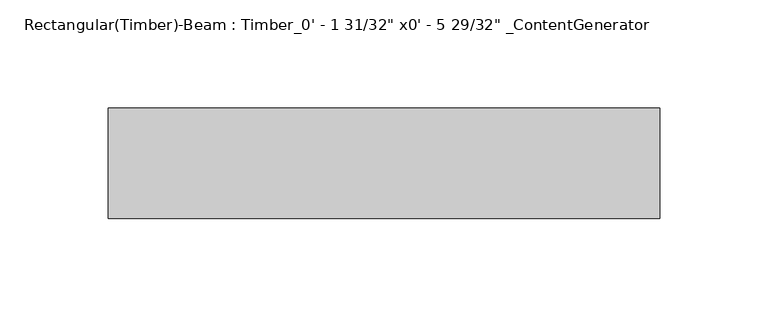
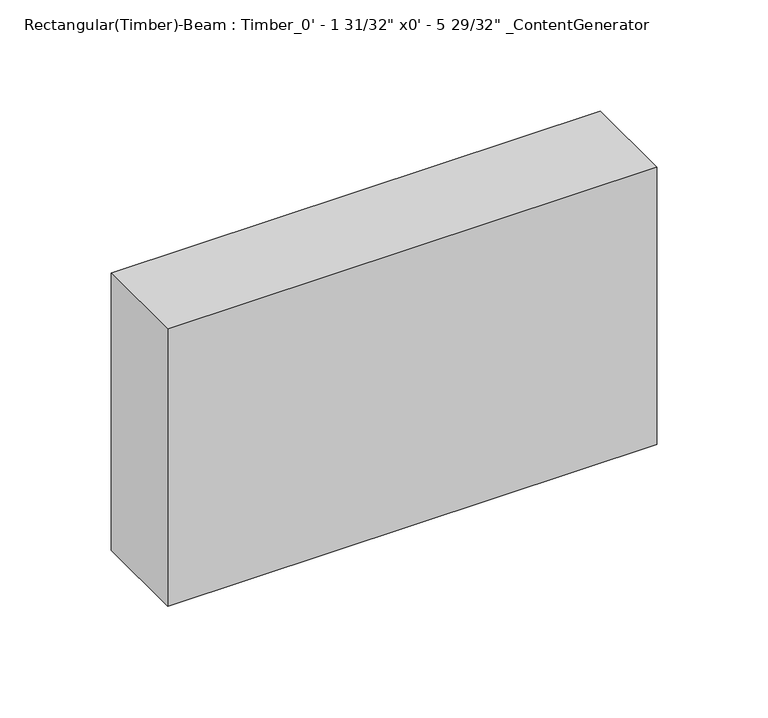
"""IFC4 building model written with IfcOpenShell, lengths in millimetres: beam geometry."""

from ifc_helpers import new_model, si_unit, frame, origin, place, context, project, spatial, polyline, outline, extrude, source, transform, mapped, element, save


def beam_7a36c676(model_context):
    return source(origin(), model_context, "Body", "SweptSolid", [
        extrude(outline(polyline([(114.3, 25.4), (114.3, -25.4), (-139.6999994, -25.4), (-139.6999994, 25.4), (114.3, 25.4)])), frame((0.0, 0.0, -76.2), z_axis=(0.0, 0.0, 1.0), x_axis=(1.0, 0.0, 0.0)), (0.0, 0.0, 1.0), 152.4),
    ])


if __name__ == "__main__":
    model = new_model("IFC4")
    model_context = context("Model", 3, world=origin())
    ifc_project = project(units=[si_unit("LENGTHUNIT", "METRE", prefix="MILLI")], contexts=[model_context])
    site = spatial("IfcSite", under=ifc_project)
    building = spatial("IfcBuilding", under=site)
    placement = place(None, origin())
    beam_shape = beam_7a36c676(model_context)
    element("IfcBeam", 1, ObjectType="Rectangular(Timber)-Beam : Timber_0' - 1 31/32\" x0' - 5 29/32\" _ContentGenerator", at=placement, inside=building, context=model_context, shape_type="MappedRepresentation", body=[
        mapped(beam_shape, transform((0.0, 0.0, 0.0), x_axis=(1.0, 0.0, 0.0), y_axis=(0.0, 1.0, 0.0), z_axis=(0.0, 0.0, 1.0))),
    ])
    save(model, "model.ifc")
